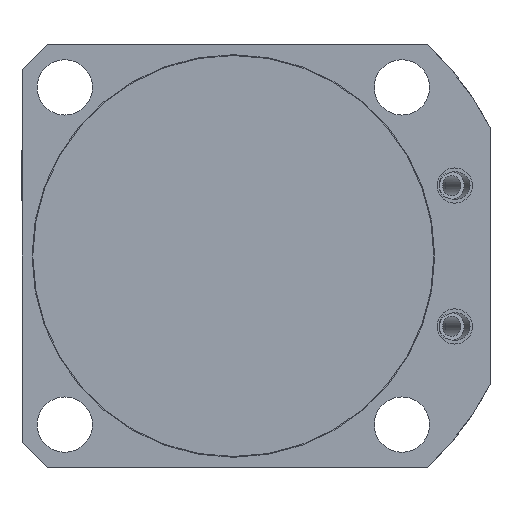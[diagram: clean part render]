
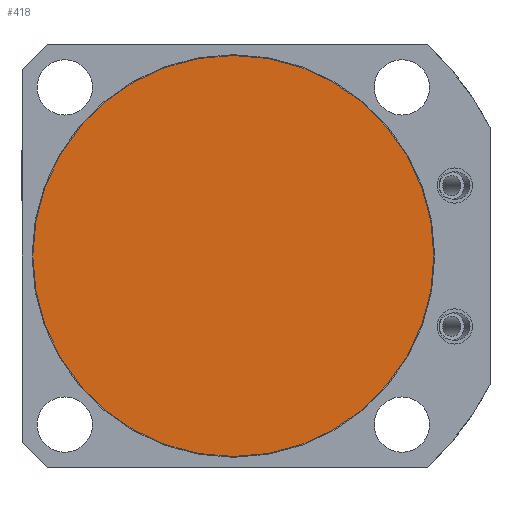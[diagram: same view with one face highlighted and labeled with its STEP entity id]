
A CAD part, front view. The second image highlights one B-rep face of the part: STEP entity #418.
In plain terms, the highlighted planar face has unit normal (0, -1, 0).
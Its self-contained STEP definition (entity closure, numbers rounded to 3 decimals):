
#418 = ADVANCED_FACE( '', ( #926 ), #927, .T. );
#926 = FACE_OUTER_BOUND( '', #1977, .T. );
#927 = PLANE( '', #1978 );
#1977 = EDGE_LOOP( '', ( #3181 ) );
#1978 = AXIS2_PLACEMENT_3D( '', #3182, #3183, #3184 );
#3181 = ORIENTED_EDGE( '', *, *, #6487, .T. );
#3182 = CARTESIAN_POINT( '', ( 0., -86., 0. ) );
#3183 = DIRECTION( '', ( 0., -1., 0. ) );
#3184 = DIRECTION( '', ( 1., 0., 0. ) );
#6487 = EDGE_CURVE( '', #7646, #7646, #7647, .T. );
#7646 = VERTEX_POINT( '', #9608 );
#7647 = CIRCLE( '', #9609, 39.85 );
#9608 = CARTESIAN_POINT( '', ( -39.85, -86., 0. ) );
#9609 = AXIS2_PLACEMENT_3D( '', #12091, #12092, #12093 );
#12091 = CARTESIAN_POINT( '', ( 0., -86., 0. ) );
#12092 = DIRECTION( '', ( 0., -1., 0. ) );
#12093 = DIRECTION( '', ( -1., 0., 0. ) );
